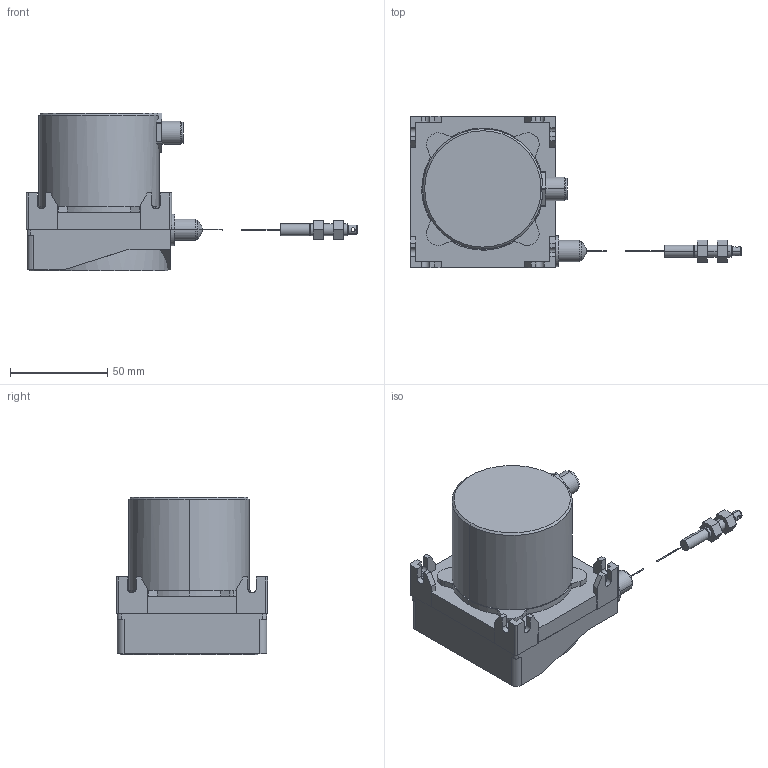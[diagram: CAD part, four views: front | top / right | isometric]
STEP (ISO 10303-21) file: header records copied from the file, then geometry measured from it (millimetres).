
FILE_DESCRIPTION (( 'STEP AP214' ), '1' );
FILE_NAME ('D8.3503.A112.0000.STEP', '2015-11-24T09:26:19', ( 'HeirlerN' ), ( 'Microsoft' ), 'SwSTEP 2.0', 'SolidWorks 2013', '' );
FILE_SCHEMA (( 'AUTOMOTIVE_DESIGN' ));
Length unit declared in the file: millimetre
Products named in the file (1): D8.3503.A112.0000
Bounding box: 171 x 78 x 81.34 mm (x, y, z)
Volume: 328994 mm3; surface area: 42002.5 mm2
Topology: 6 solids, 6 shells, 240 faces, 617 edges, 407 vertices
Faces by surface type: plane 146, cylinder 82, cone 12
Entity records: 11004 total; most frequent: CARTESIAN_POINT 2460, ORIENTED_EDGE 1234, DIRECTION 1149, EDGE_CURVE 617, LINE 421, VECTOR 421, VERTEX_POINT 407, AXIS2_PLACEMENT_3D 364
